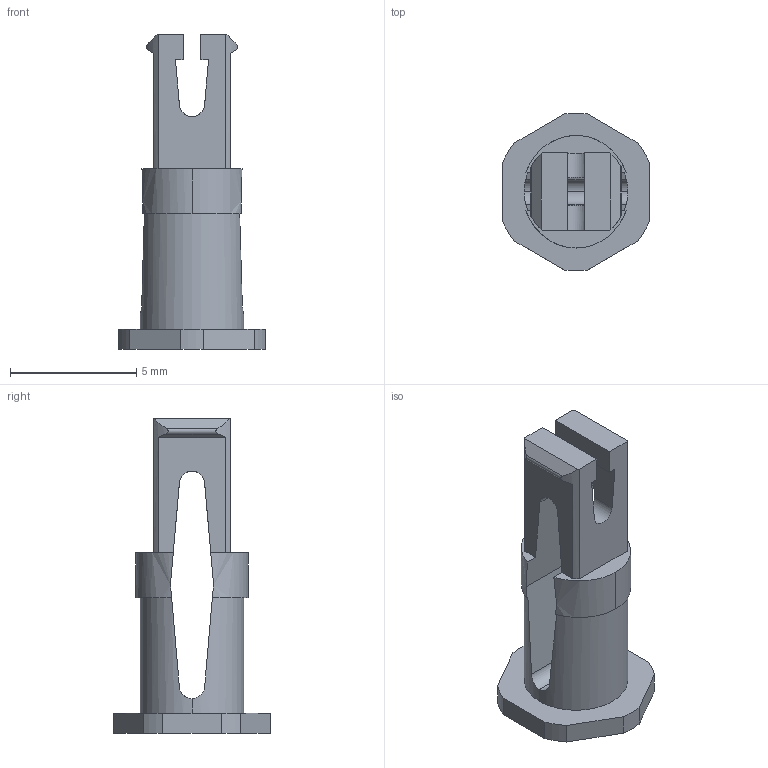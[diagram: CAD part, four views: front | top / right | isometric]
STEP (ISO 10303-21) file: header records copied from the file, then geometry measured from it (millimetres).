
FILE_DESCRIPTION (( 'STEP AP214' ), '1' );
FILE_NAME ('228-2500-2258.STEP', '2021-02-18T20:33:37', ( '' ), ( '' ), 'SwSTEP 2.0', 'SolidWorks 2019', '' );
FILE_SCHEMA (( 'AUTOMOTIVE_DESIGN' ));
Length unit declared in the file: millimetre
Products named in the file (1): 228-2500-2258
Bounding box: 5.8 x 6.24 x 12.46 mm (x, y, z)
Volume: 107 mm3; surface area: 275 mm2
Topology: 1 solids, 1 shells, 55 faces, 166 edges, 110 vertices
Faces by surface type: plane 32, cylinder 20, bspline 3
Entity records: 1959 total; most frequent: CARTESIAN_POINT 507, ORIENTED_EDGE 332, DIRECTION 262, EDGE_CURVE 166, VERTEX_POINT 110, LINE 100, VECTOR 100, AXIS2_PLACEMENT_3D 81
